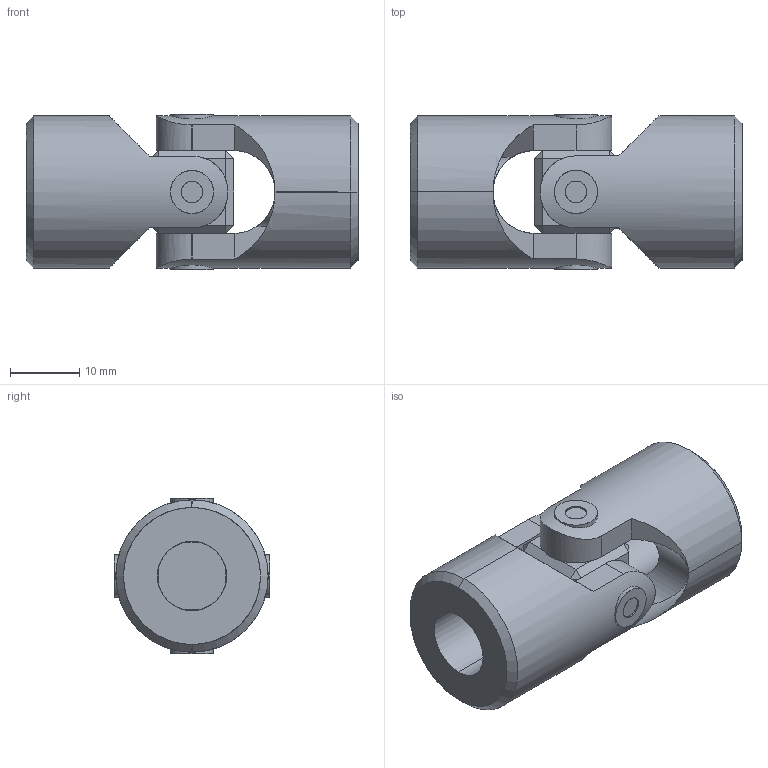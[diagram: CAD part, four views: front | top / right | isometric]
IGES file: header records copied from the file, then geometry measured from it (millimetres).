
Start section: SolidWorks IGES file using analytic representation for surfaces
Global section: file name: C:\Users\IanO\Desktop\R3690_v2\R3690_v2_20231020_IGES\R3690.010-RB.igs; native system: SolidWorks 2019; preprocessor: SolidWorks 2019; author: IanO; date: 231020.152152; units: millimetre
Bounding box: 48 x 22.44 x 22.44 mm (x, y, z)
Surface area: 7500.6 mm2 (no closed solid volume)
Topology: 0 solids, 0 shells, 104 faces, 2116 edges, 2116 vertices
Faces by surface type: bspline 56, revolution 48
